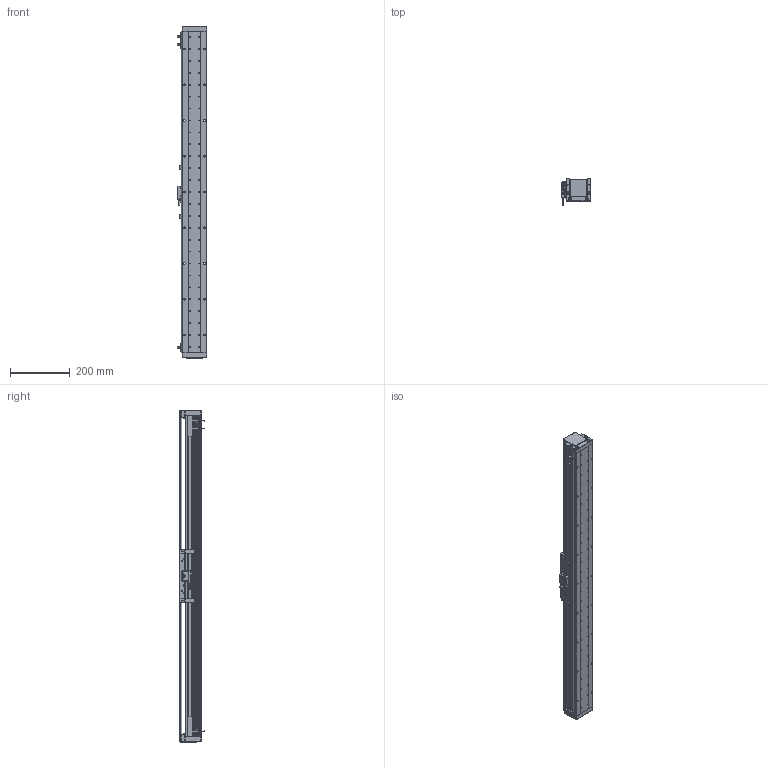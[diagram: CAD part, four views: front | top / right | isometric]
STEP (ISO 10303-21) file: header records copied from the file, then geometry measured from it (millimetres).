
FILE_DESCRIPTION (( 'STEP AP203' ), '1' );
FILE_NAME ('DA-A82-B2-T860-C010-0.2 眻盄萇儂.STEP', '2025-08-13T03:07:16', ( '' ), ( '' ), 'SwSTEP 2.0', 'SolidWorks 2019', '' );
FILE_SCHEMA (( 'CONFIG_CONTROL_DESIGN' ));
Length unit declared in the file: millimetre
Products named in the file (21): IU-AU82-L 菁釱絳寢; DA-A82-B2-T860-C010-0.2 眻盄萇儂; IU-AU82-L-00 菁釱(L1080); AU82-HT-M-00 賑雄怢啣; 葩璃 PM-T45^DA-A82-B2-T-C010-0.2; 复件 DA95-B2-GT-00 滑块钢轨^AU82-M-00 一体化滑动台板; 复件 DA95-GT-T-00 底座钢轨^IU-AU82-L 底座导轨; 葩璃 BKM01-W040-TRL^DA-A82-B2-T-C010-0.2; 葩璃 鞠褒情蹟譫 M3^DA-A82-B2-T-C010-0.2; AU82-M-00 珨极趙賑雄怢啣; 葩璃 XD-U-02  棠掑喜^DA-A82-B2-T-C010-0.2; 葩璃 DA60-DMT-DTJ-00 黍杅芛盓殤^DA-A82-B2-T-C010-0.2; 葩璃 DA82-B2-DP-00 結え^AU82-M 幗紩賑怢; 复件 复件 DA82-XJ-00 缓冲橡胶^DA-A82-B2-T-C010-0.2; AU82-M 幗紩賑怢; ｸｴｼ BKM02-W040-C1-TP-DA-3.0 ﾖｱﾏﾟｵ扈巐ｯﾗﾓ^DA-A82-B2-T-C010-0.2; 复件 纯铜油杯 6x6mm^AU82-M 滚珠滑台; 葩璃 DA82-T-002-00 裔啣^DA-A82-B2-T-C010-0.2; 复件 DA82-DG-H-N-00 端盖^DA-A82-B2-T-C010-0.2(默认_按加工_); 葩璃 DMT-010 1米m 0.2M^DA-A82-B2-T-C010-0.2; DA-A60-GYP-DMT-00 光电感应片^DA-A82-B2-T-C010-0.2(默认)
Assembly tree (36 placements, depth 4):
  DA-A82-B2-T860-C010-0.2 眻盄萇儂
    IU-AU82-L 菁釱絳寢
      IU-AU82-L-00 菁釱(L1080)
      复件 DA95-GT-T-00 底座钢轨^IU-AU82-L 底座导轨  x2
    AU82-M 幗紩賑怢
      AU82-M-00 珨极趙賑雄怢啣
        AU82-HT-M-00 賑雄怢啣
        复件 DA95-B2-GT-00 滑块钢轨^AU82-M-00 一体化滑动台板  x4
      葩璃 DA82-B2-DP-00 結え^AU82-M 幗紩賑怢  x2
      复件 纯铜油杯 6x6mm^AU82-M 滚珠滑台  x2
    葩璃 DA60-DMT-DTJ-00 黍杅芛盓殤^DA-A82-B2-T-C010-0.2
    葩璃 DMT-010 1米m 0.2M^DA-A82-B2-T-C010-0.2
    DA-A60-GYP-DMT-00 光电感应片^DA-A82-B2-T-C010-0.2(默认)  x2
    ｸｴｼ BKM02-W040-C1-TP-DA-3.0 ﾖｱﾏﾟｵ扈巐ｯﾗﾓ^DA-A82-B2-T-C010-0.2
    复件 复件 DA82-XJ-00 缓冲橡胶^DA-A82-B2-T-C010-0.2  x2
    复件 DA82-DG-H-N-00 端盖^DA-A82-B2-T-C010-0.2(默认_按加工_)  x2
    葩璃 DA82-T-002-00 裔啣^DA-A82-B2-T-C010-0.2
    葩璃 BKM01-W040-TRL^DA-A82-B2-T-C010-0.2
    葩璃 PM-T45^DA-A82-B2-T-C010-0.2  x3
    葩璃 XD-U-02  棠掑喜^DA-A82-B2-T-C010-0.2
    葩璃 鞠褒情蹟譫 M3^DA-A82-B2-T-C010-0.2  x6
Bounding box: 98.95 x 87.2 x 1114 mm (x, y, z)
Volume: 3559799.1 mm3; surface area: 1025240.2 mm2
Topology: 40 solids, 64 shells, 2125 faces, 5590 edges, 3492 vertices
Faces by surface type: cylinder 1003, plane 814, cone 252, torus 38, bspline 12, sphere 6
Entity records: 57515 total; most frequent: CARTESIAN_POINT 12829, DIRECTION 9038, ORIENTED_EDGE 8502, EDGE_CURVE 4251, AXIS2_PLACEMENT_3D 3434, VERTEX_POINT 2759, LINE 2170, VECTOR 2170
